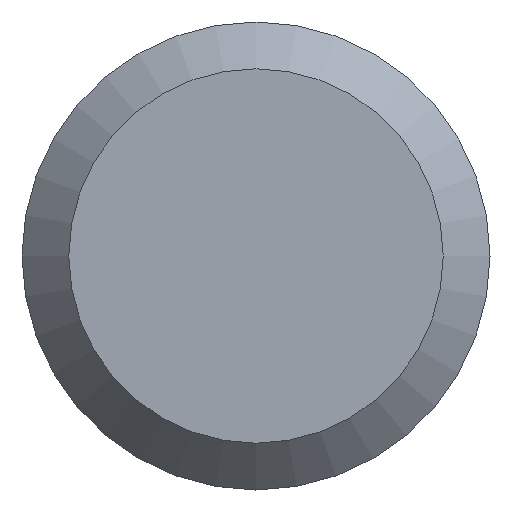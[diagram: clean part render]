
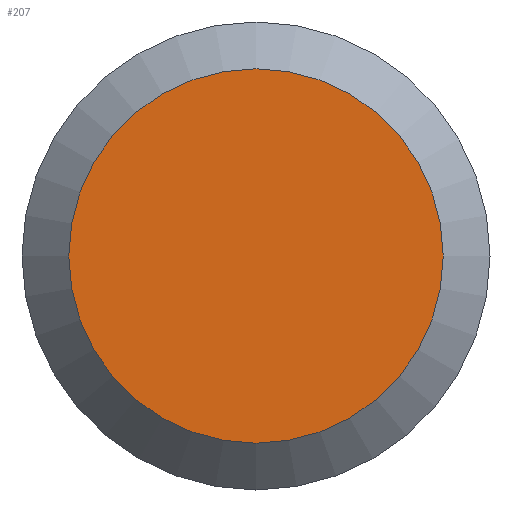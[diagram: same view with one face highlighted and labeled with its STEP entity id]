
A CAD part, left-side view. The second image highlights one B-rep face of the part: STEP entity #207.
In plain terms, the highlighted planar face has unit normal (-1, 0, 0).
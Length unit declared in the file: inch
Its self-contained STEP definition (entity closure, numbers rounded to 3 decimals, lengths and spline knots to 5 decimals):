
#17 = AXIS2_PLACEMENT_3D ( 'NONE', #21, #163, #203 ) ;
#21 = CARTESIAN_POINT ( 'NONE',  ( 0., 0.1065, 0. ) ) ;
#29 = ORIENTED_EDGE ( 'NONE', *, *, #84, .T. ) ;
#84 = EDGE_CURVE ( 'NONE', #216, #216, #140, .T. ) ;
#87 = DIRECTION ( 'NONE',  ( 0., 0., -1. ) ) ;
#91 = DIRECTION ( 'NONE',  ( -1., 0., 0. ) ) ;
#140 = CIRCLE ( 'NONE', #180, 0.0852 ) ;
#156 = PLANE ( 'NONE',  #17 ) ;
#163 = DIRECTION ( 'NONE',  ( 1., 0., 0. ) ) ;
#180 = AXIS2_PLACEMENT_3D ( 'NONE', #228, #91, #87 ) ;
#193 = CARTESIAN_POINT ( 'NONE',  ( 0., 0., -0.0852 ) ) ;
#203 = DIRECTION ( 'NONE',  ( 0., 0., -1. ) ) ;
#207 = ADVANCED_FACE ( 'NONE', ( #243 ), #156, .F. ) ;
#216 = VERTEX_POINT ( 'NONE', #193 ) ;
#228 = CARTESIAN_POINT ( 'NONE',  ( 0., 0., 0. ) ) ;
#238 = EDGE_LOOP ( 'NONE', ( #29 ) ) ;
#243 = FACE_OUTER_BOUND ( 'NONE', #238, .T. ) ;
